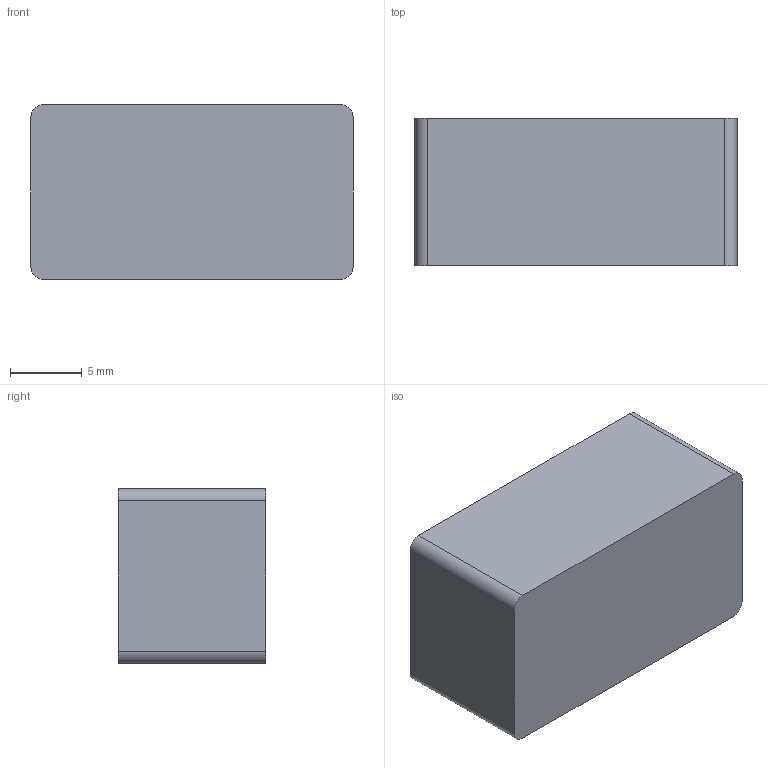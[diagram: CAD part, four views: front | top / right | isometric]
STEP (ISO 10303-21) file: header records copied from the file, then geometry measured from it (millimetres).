
FILE_DESCRIPTION(/* description */ ('STEP AP242 Edition 2','CAx-IF Rec.Pracs.---Representation and Presentation of Product Manufacturing Information (PMI)---4.0---2014-10-13','CAx-IF Rec.Pracs.---3D Tessellated Geometry---0.4---2014-09-14','2;1','CAx-IF Rec.Pracs.---User Defined Attributes---1.5---2016-08-15'),/* implementation_level */ '2;1');
FILE_NAME(/* name */ '606c0d23-7bbb-4018-a432-f59975e2b41f',/* time_stamp */ '2026-11-04T05:15:27Z',/* author */ (''),/* organization */ (''),/* preprocessor_version */ 'ST-DEVELOPER v20',/* originating_system */ 'ONSHAPE BY PTC INC, 1.223',/* authorisation */ ' ');
FILE_SCHEMA (('AP242_MANAGED_MODEL_BASED_3D_ENGINEERING_MIM_LF { 1 0 10303 442 3 1 4 }'));
Length unit declared in the file: metre
Products named in the file (1): SG90 - Micro Servo 9g - Tower Pro.1_Pe‡a
Bounding box: 22.5 x 10.3 x 12.2 mm (x, y, z)
Volume: 2821 mm3; surface area: 1247.5 mm2
Topology: 1 solids, 1 shells, 10 faces, 24 edges, 16 vertices
Faces by surface type: plane 6, cylinder 4
Entity records: 318 total; most frequent: DIRECTION 54, CARTESIAN_POINT 51, ORIENTED_EDGE 48, EDGE_CURVE 24, AXIS2_PLACEMENT_3D 19, LINE 16, VECTOR 16, VERTEX_POINT 16
